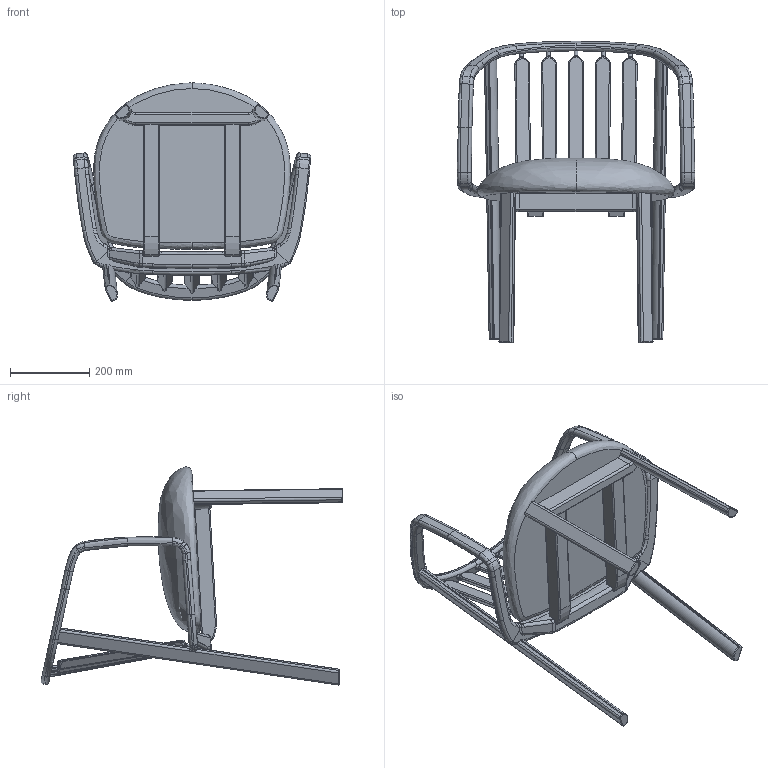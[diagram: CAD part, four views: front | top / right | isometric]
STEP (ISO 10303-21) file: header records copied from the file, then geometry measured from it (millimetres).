
FILE_DESCRIPTION (( 'STEP AP203' ), '1' );
FILE_NAME ('stolica WHERRY_defeature.STEP', '2022-12-16T13:35:29', ( '' ), ( '' ), 'SwSTEP 2.0', 'SolidWorks 2021', '' );
FILE_SCHEMA (( 'CONFIG_CONTROL_DESIGN' ));
Length unit declared in the file: millimetre
Products named in the file (2): Group1^stolica WHERRY_defeature; stolica WHERRY_defeature
Assembly tree (1 placements, depth 2):
  stolica WHERRY_defeature
    Group1^stolica WHERRY_defeature
Bounding box: 598.24 x 761.22 x 549.96 mm (x, y, z)
Volume: 19203637.6 mm3; surface area: 1203948.5 mm2
Topology: 1 solids, 1 shells, 779 faces, 1971 edges, 1191 vertices
Faces by surface type: bspline 279, cylinder 249, plane 160, torus 91
Entity records: 53638 total; most frequent: CARTESIAN_POINT 37231, ORIENTED_EDGE 3938, DIRECTION 2754, EDGE_CURVE 1969, VERTEX_POINT 1191, AXIS2_PLACEMENT_3D 1105, EDGE_LOOP 786, FACE_OUTER_BOUND 779
